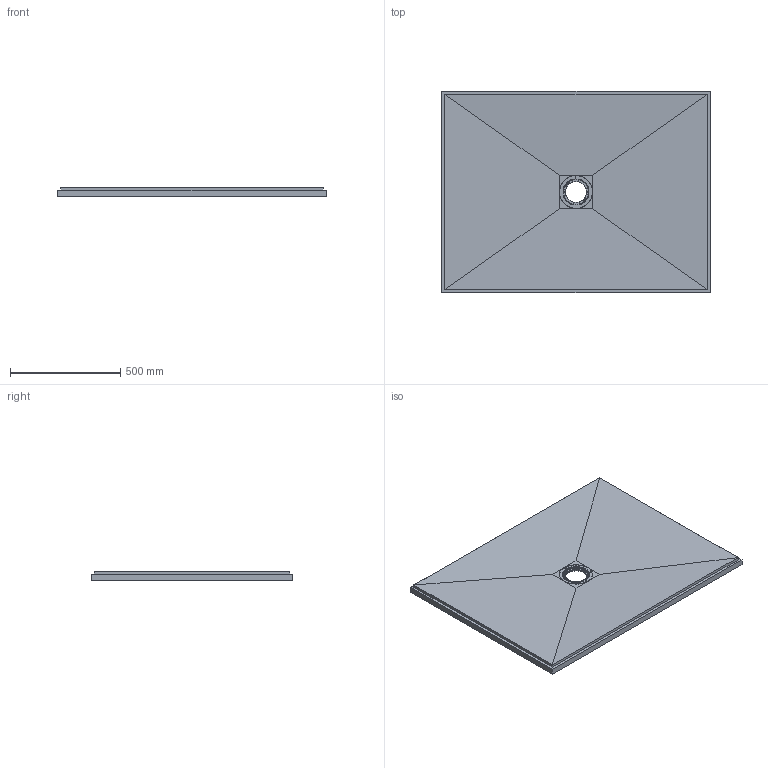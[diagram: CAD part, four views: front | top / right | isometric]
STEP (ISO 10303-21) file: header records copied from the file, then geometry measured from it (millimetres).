
FILE_DESCRIPTION(/* description */ ('Fertigteil'),/* implementation_level */ '2;1');
FILE_NAME(/* name */ 'C:\Users\fuser-vault-job\AppData\Local\Temp\MuM_qg0ayllg.r02\D-000000829.iam_.step',/* time_stamp */ '2022-07-14T08:33:32+02:00',/* author */ ('ds'),/* organization */ (''),/* preprocessor_version */ 'ST-DEVELOPER v18.1',/* originating_system */ 'Autodesk Inventor 2020',/* authorisation */ '');
FILE_SCHEMA (('AUTOMOTIVE_DESIGN { 1 0 10303 214 3 1 1 }'));
Products named in the file (3): 073740055; 073740055_1; DD0000003
Assembly tree (2 placements, depth 2):
  073740055
    073740055_1
    DD0000003
Bounding box: 1219.2 x 914.4 x 40 mm (x, y, z)
Volume: 36420243.3 mm3; surface area: 2425025.6 mm2
Topology: 2 solids, 2 shells, 743 faces, 2189 edges, 1474 vertices
Faces by surface type: bspline 372, torus 115, cone 78, cylinder 76, plane 68, sphere 34
Full cylindrical faces by diameter (mm): 6 x3, 151 x1
Entity records: 63140 total; most frequent: CARTESIAN_POINT 44892, ORIENTED_EDGE 4322, DIRECTION 3297, EDGE_CURVE 2161, VERTEX_POINT 1456, AXIS2_PLACEMENT_3D 1338, CIRCLE 812, EDGE_LOOP 803
